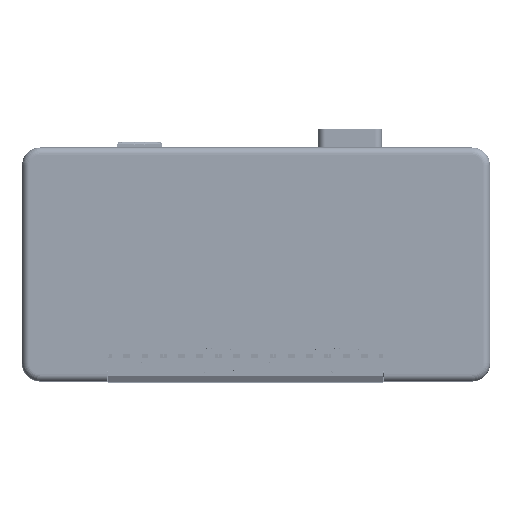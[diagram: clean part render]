
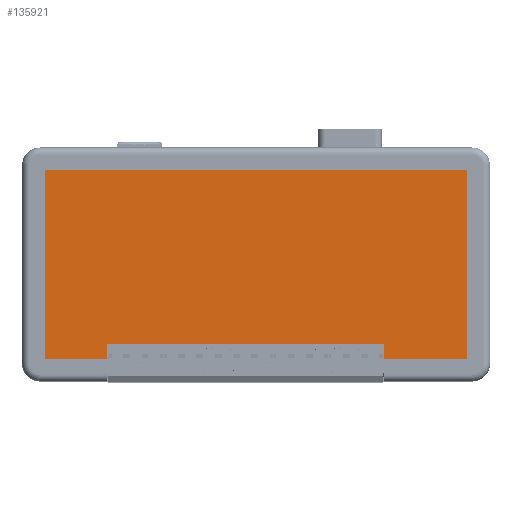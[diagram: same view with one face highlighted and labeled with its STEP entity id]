
A CAD part, top view. The second image highlights one B-rep face of the part: STEP entity #135921.
In plain terms, the highlighted planar face has unit normal (0, 0, 1) as drawn and (0, 0, -1) by its records, which use the part's own axes.
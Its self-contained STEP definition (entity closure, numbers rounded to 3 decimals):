
#5771 = DIRECTION ( 'NONE',  ( 0., 1., 0. ) ) ;
#7073 = VERTEX_POINT ( 'NONE', #87003 ) ;
#9373 = DIRECTION ( 'NONE',  ( 0., -1., 0. ) ) ;
#14094 = CARTESIAN_POINT ( 'NONE',  ( -58.625, -26.125, 1. ) ) ;
#15938 = CARTESIAN_POINT ( 'NONE',  ( 0., 0., 1. ) ) ;
#16750 = VECTOR ( 'NONE', #129674, 1000. ) ;
#27448 = CARTESIAN_POINT ( 'NONE',  ( -41.5, 0., 1. ) ) ;
#27930 = PLANE ( 'NONE',  #154636 ) ;
#27983 = VECTOR ( 'NONE', #9373, 1000. ) ;
#33547 = EDGE_LOOP ( 'NONE', ( #95026, #69187, #150674, #82930, #151891, #41533, #135245, #108672 ) ) ;
#39937 = DIRECTION ( 'NONE',  ( 1., 0., 0. ) ) ;
#41533 = ORIENTED_EDGE ( 'NONE', *, *, #97649, .T. ) ;
#42127 = VECTOR ( 'NONE', #137032, 1000. ) ;
#44806 = CARTESIAN_POINT ( 'NONE',  ( -58.625, 26.125, 1. ) ) ;
#52840 = CARTESIAN_POINT ( 'NONE',  ( 35.5, 0., 1. ) ) ;
#53532 = CARTESIAN_POINT ( 'NONE',  ( -58.625, 26.125, 1. ) ) ;
#54521 = VERTEX_POINT ( 'NONE', #101779 ) ;
#56219 = EDGE_CURVE ( 'NONE', #112531, #87604, #116292, .T. ) ;
#60710 = VERTEX_POINT ( 'NONE', #91572 ) ;
#64543 = CARTESIAN_POINT ( 'NONE',  ( 35.5, 26.125, 1. ) ) ;
#64957 = CARTESIAN_POINT ( 'NONE',  ( -58.625, 26.125, 1. ) ) ;
#64966 = CARTESIAN_POINT ( 'NONE',  ( -58.625, -26.125, 1. ) ) ;
#69187 = ORIENTED_EDGE ( 'NONE', *, *, #73789, .T. ) ;
#70742 = DIRECTION ( 'NONE',  ( 1., 0., 0. ) ) ;
#72990 = DIRECTION ( 'NONE',  ( 0., 0., 1. ) ) ;
#73789 = EDGE_CURVE ( 'NONE', #87604, #78381, #86617, .T. ) ;
#77668 = LINE ( 'NONE', #64966, #42127 ) ;
#78381 = VERTEX_POINT ( 'NONE', #101919 ) ;
#82930 = ORIENTED_EDGE ( 'NONE', *, *, #89475, .T. ) ;
#84506 = VECTOR ( 'NONE', #137119, 1000. ) ;
#86617 = LINE ( 'NONE', #27448, #146380 ) ;
#87003 = CARTESIAN_POINT ( 'NONE',  ( 58.625, 26.125, 1. ) ) ;
#87604 = VERTEX_POINT ( 'NONE', #142423 ) ;
#89475 = EDGE_CURVE ( 'NONE', #60710, #99851, #103611, .T. ) ;
#91572 = CARTESIAN_POINT ( 'NONE',  ( 35.5, 22., 1. ) ) ;
#94350 = CARTESIAN_POINT ( 'NONE',  ( -58.625, 26.125, 1. ) ) ;
#94792 = VECTOR ( 'NONE', #70742, 1000. ) ;
#95026 = ORIENTED_EDGE ( 'NONE', *, *, #56219, .T. ) ;
#95349 = LINE ( 'NONE', #118063, #27983 ) ;
#97649 = EDGE_CURVE ( 'NONE', #7073, #54521, #95349, .T. ) ;
#99851 = VERTEX_POINT ( 'NONE', #64543 ) ;
#99925 = VECTOR ( 'NONE', #124962, 1000. ) ;
#101779 = CARTESIAN_POINT ( 'NONE',  ( 58.625, -26.125, 1. ) ) ;
#101919 = CARTESIAN_POINT ( 'NONE',  ( -41.5, 22., 1. ) ) ;
#103152 = EDGE_CURVE ( 'NONE', #141913, #112531, #128336, .T. ) ;
#103611 = LINE ( 'NONE', #52840, #99925 ) ;
#108672 = ORIENTED_EDGE ( 'NONE', *, *, #103152, .T. ) ;
#112531 = VERTEX_POINT ( 'NONE', #64957 ) ;
#116292 = LINE ( 'NONE', #53532, #84506 ) ;
#117590 = CARTESIAN_POINT ( 'NONE',  ( 0., 22., 1. ) ) ;
#118063 = CARTESIAN_POINT ( 'NONE',  ( 58.625, 26.125, 1. ) ) ;
#123121 = DIRECTION ( 'NONE',  ( 0., -1., 0. ) ) ;
#124548 = VECTOR ( 'NONE', #5771, 1000. ) ;
#124962 = DIRECTION ( 'NONE',  ( 0., 1., 0. ) ) ;
#126612 = LINE ( 'NONE', #94350, #94792 ) ;
#128336 = LINE ( 'NONE', #44806, #124548 ) ;
#129674 = DIRECTION ( 'NONE',  ( 1., 0., 0. ) ) ;
#131242 = FACE_OUTER_BOUND ( 'NONE', #33547, .T. ) ;
#135245 = ORIENTED_EDGE ( 'NONE', *, *, #147295, .T. ) ;
#135921 = ADVANCED_FACE ( 'NONE', ( #131242 ), #27930, .F. ) ;
#137032 = DIRECTION ( 'NONE',  ( -1., 0., 0. ) ) ;
#137119 = DIRECTION ( 'NONE',  ( 1., 0., 0. ) ) ;
#139868 = EDGE_CURVE ( 'NONE', #99851, #7073, #126612, .T. ) ;
#141913 = VERTEX_POINT ( 'NONE', #14094 ) ;
#142423 = CARTESIAN_POINT ( 'NONE',  ( -41.5, 26.125, 1. ) ) ;
#143885 = LINE ( 'NONE', #117590, #16750 ) ;
#145446 = EDGE_CURVE ( 'NONE', #78381, #60710, #143885, .T. ) ;
#146380 = VECTOR ( 'NONE', #123121, 1000. ) ;
#147295 = EDGE_CURVE ( 'NONE', #54521, #141913, #77668, .T. ) ;
#150674 = ORIENTED_EDGE ( 'NONE', *, *, #145446, .T. ) ;
#151891 = ORIENTED_EDGE ( 'NONE', *, *, #139868, .T. ) ;
#154636 = AXIS2_PLACEMENT_3D ( 'NONE', #15938, #72990, #39937 ) ;
